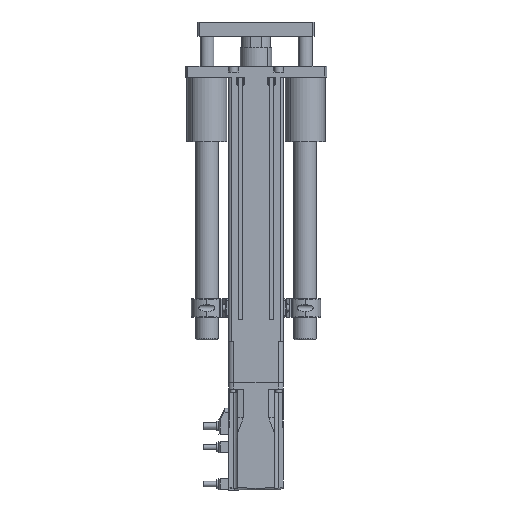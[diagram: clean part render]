
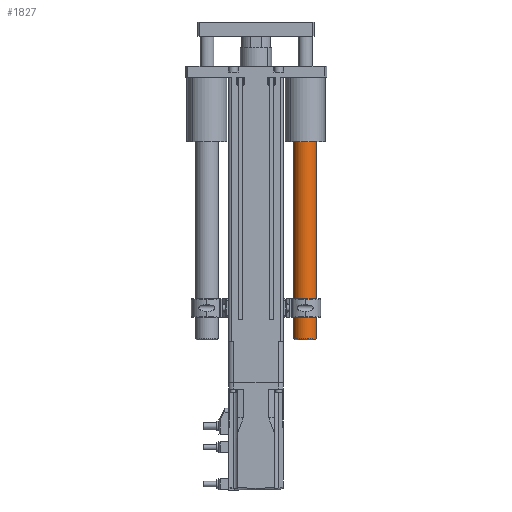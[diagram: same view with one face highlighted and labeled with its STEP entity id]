
A CAD part, front view. The second image highlights one B-rep face of the part: STEP entity #1827.
In plain terms, the highlighted cylindrical face has radius 12.5 mm (diameter 25 mm), a partial arc.
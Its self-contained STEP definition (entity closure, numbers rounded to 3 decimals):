
#453 = VERTEX_POINT ( 'NONE', #16331 ) ;
#537 = CARTESIAN_POINT ( 'NONE',  ( 41.5, 0., 0.1 ) ) ;
#1827 = ADVANCED_FACE ( 'NONE', ( #26153 ), #2913, .T. ) ;
#1971 = DIRECTION ( 'NONE',  ( -1., 0., 0. ) ) ;
#2913 = CYLINDRICAL_SURFACE ( 'NONE', #22405, 12.5 ) ;
#4960 = DIRECTION ( 'NONE',  ( 0., 0., 1. ) ) ;
#6398 = DIRECTION ( 'NONE',  ( 0., 0., 1. ) ) ;
#6505 = CARTESIAN_POINT ( 'NONE',  ( 66.5, 0., 1.1 ) ) ;
#7049 = CARTESIAN_POINT ( 'NONE',  ( 54., 0., 218.1 ) ) ;
#8612 = CARTESIAN_POINT ( 'NONE',  ( 54., 0., 0.1 ) ) ;
#9185 = ORIENTED_EDGE ( 'NONE', *, *, #21688, .T. ) ;
#9243 = DIRECTION ( 'NONE',  ( 0., -1., 0. ) ) ;
#10546 = ORIENTED_EDGE ( 'NONE', *, *, #21649, .F. ) ;
#11367 = VECTOR ( 'NONE', #4960, 1000. ) ;
#11649 = CARTESIAN_POINT ( 'NONE',  ( 54., 0., 1.1 ) ) ;
#13263 = LINE ( 'NONE', #27356, #24139 ) ;
#13367 = VERTEX_POINT ( 'NONE', #21497 ) ;
#13626 = EDGE_CURVE ( 'NONE', #13367, #453, #17183, .T. ) ;
#13856 = DIRECTION ( 'NONE',  ( 1., 0., 0. ) ) ;
#14322 = DIRECTION ( 'NONE',  ( 0., 0., 1. ) ) ;
#15379 = ORIENTED_EDGE ( 'NONE', *, *, #13626, .F. ) ;
#15395 = AXIS2_PLACEMENT_3D ( 'NONE', #7049, #22304, #9243 ) ;
#16331 = CARTESIAN_POINT ( 'NONE',  ( 41.5, 0., 218.1 ) ) ;
#16566 = EDGE_CURVE ( 'NONE', #20300, #25128, #13263, .T. ) ;
#17183 = LINE ( 'NONE', #537, #11367 ) ;
#18609 = EDGE_LOOP ( 'NONE', ( #9185, #25280, #10546, #15379 ) ) ;
#19751 = AXIS2_PLACEMENT_3D ( 'NONE', #11649, #26879, #13856 ) ;
#20300 = VERTEX_POINT ( 'NONE', #6505 ) ;
#20537 = CIRCLE ( 'NONE', #19751, 12.5 ) ;
#21497 = CARTESIAN_POINT ( 'NONE',  ( 41.5, 0., 1.1 ) ) ;
#21649 = EDGE_CURVE ( 'NONE', #453, #25128, #26334, .T. ) ;
#21688 = EDGE_CURVE ( 'NONE', #13367, #20300, #20537, .T. ) ;
#22304 = DIRECTION ( 'NONE',  ( 0., 0., 1. ) ) ;
#22405 = AXIS2_PLACEMENT_3D ( 'NONE', #8612, #6398, #1971 ) ;
#24139 = VECTOR ( 'NONE', #14322, 1000. ) ;
#25128 = VERTEX_POINT ( 'NONE', #25655 ) ;
#25280 = ORIENTED_EDGE ( 'NONE', *, *, #16566, .T. ) ;
#25655 = CARTESIAN_POINT ( 'NONE',  ( 66.5, 0., 218.1 ) ) ;
#26153 = FACE_OUTER_BOUND ( 'NONE', #18609, .T. ) ;
#26334 = CIRCLE ( 'NONE', #15395, 12.5 ) ;
#26879 = DIRECTION ( 'NONE',  ( 0., 0., 1. ) ) ;
#27356 = CARTESIAN_POINT ( 'NONE',  ( 66.5, 0., 0.1 ) ) ;
